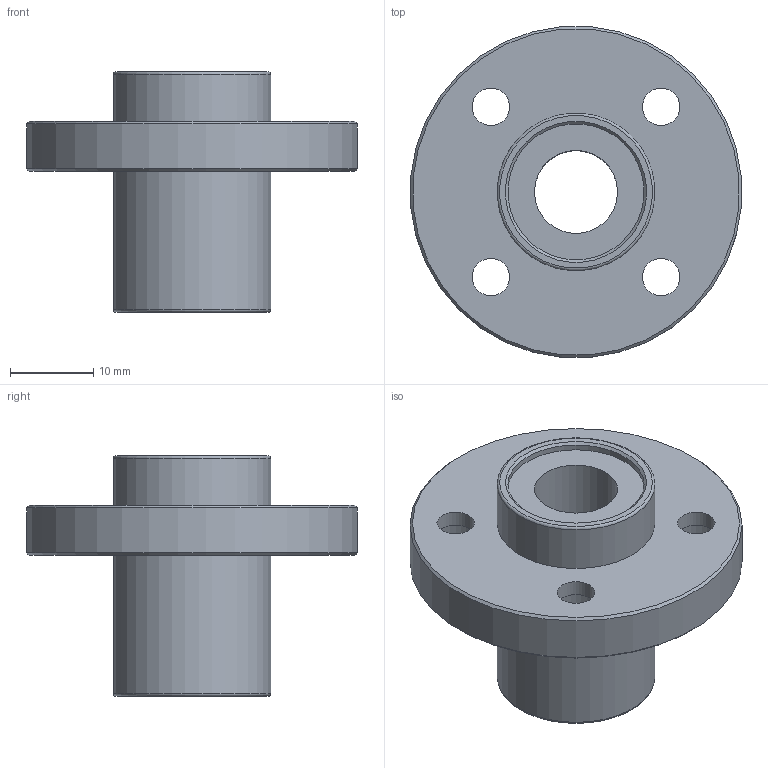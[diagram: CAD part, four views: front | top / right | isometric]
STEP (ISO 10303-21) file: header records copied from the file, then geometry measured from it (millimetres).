
FILE_DESCRIPTION(/* description */ (''),/* implementation_level */ '2;1');
FILE_NAME(/* name */ 'LMFP10UU',/* time_stamp */ '2019-07-03T11:32:45+02:00',/* author */ ('VĂ©gh MĂˇtĂ©'),/* organization */ ('Bearing Kft'),/* preprocessor_version */ 'ST-DEVELOPER v16.7',/* originating_system */ 'DEX',/* authorisation */ $);
FILE_SCHEMA (('AUTOMOTIVE_DESIGN {1 0 10303 214 3 1 1}'));
Length unit declared in the file: millimetre
Products named in the file (1): LMFP10UU
Bounding box: 39.85 x 39.85 x 29 mm (x, y, z)
Volume: 10653.2 mm3; surface area: 5736.1 mm2
Topology: 1 solids, 1 shells, 338 faces, 838 edges, 558 vertices
Faces by surface type: plane 253, bspline 62, cylinder 17, cone 4, torus 2
Full cylindrical faces by diameter (mm): 4.5 x4, 7.5 x4, 10 x1, 16.4 x2, 19 x2, 40 x1
Entity records: 12515 total; most frequent: CARTESIAN_POINT 4908, ORIENTED_EDGE 1622, DIRECTION 1281, EDGE_CURVE 811, LINE 647, VECTOR 647, VERTEX_POINT 554, EDGE_LOOP 427
